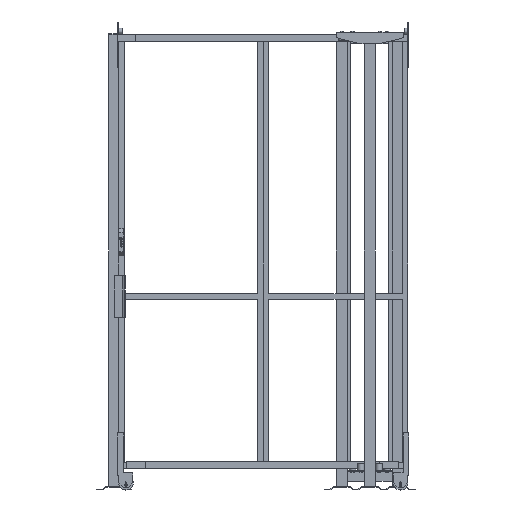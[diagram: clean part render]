
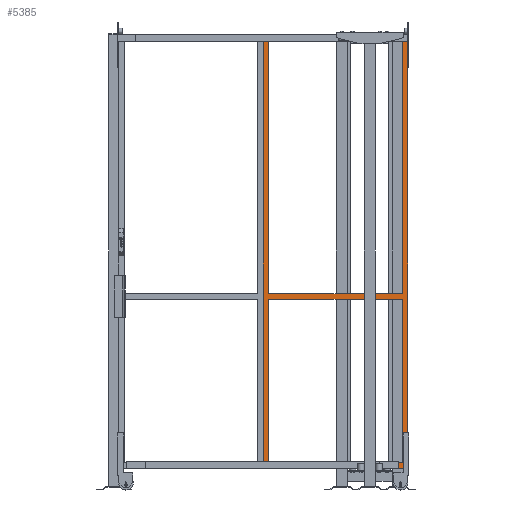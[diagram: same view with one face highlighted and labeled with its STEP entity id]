
A CAD part, front view. The second image highlights one B-rep face of the part: STEP entity #5385.
In plain terms, the highlighted planar face has unit normal (0, -1, 0).
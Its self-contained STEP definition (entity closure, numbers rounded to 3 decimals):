
#433=FACE_BOUND('',#874,.T.);
#434=FACE_BOUND('',#875,.T.);
#476=FACE_OUTER_BOUND('',#873,.T.);
#873=EDGE_LOOP('',(#3075,#3076,#3077,#3078));
#874=EDGE_LOOP('',(#3079,#3080,#3081,#3082));
#875=EDGE_LOOP('',(#3083,#3084,#3085,#3086));
#1307=VERTEX_POINT('',#10757);
#1309=VERTEX_POINT('',#10760);
#1312=VERTEX_POINT('',#10767);
#1314=VERTEX_POINT('',#10771);
#1315=VERTEX_POINT('',#10775);
#1317=VERTEX_POINT('',#10781);
#1318=VERTEX_POINT('',#10782);
#1319=VERTEX_POINT('',#10784);
#1320=VERTEX_POINT('',#10786);
#1321=VERTEX_POINT('',#10789);
#1322=VERTEX_POINT('',#10791);
#1323=VERTEX_POINT('',#10794);
#2034=EDGE_CURVE('',#1307,#1309,#6142,.T.);
#2040=EDGE_CURVE('',#1314,#1312,#6148,.T.);
#2041=EDGE_CURVE('',#1315,#1312,#6149,.T.);
#2044=EDGE_CURVE('',#1317,#1318,#6152,.T.);
#2045=EDGE_CURVE('',#1319,#1318,#6153,.T.);
#2046=EDGE_CURVE('',#1320,#1319,#6154,.T.);
#2047=EDGE_CURVE('',#1317,#1320,#6155,.T.);
#2048=EDGE_CURVE('',#1307,#1321,#6156,.T.);
#2049=EDGE_CURVE('',#1321,#1322,#6157,.T.);
#2050=EDGE_CURVE('',#1322,#1309,#6158,.T.);
#2051=EDGE_CURVE('',#1314,#1323,#6159,.T.);
#2052=EDGE_CURVE('',#1323,#1315,#6160,.T.);
#3075=ORIENTED_EDGE('',*,*,#2044,.T.);
#3076=ORIENTED_EDGE('',*,*,#2045,.F.);
#3077=ORIENTED_EDGE('',*,*,#2046,.F.);
#3078=ORIENTED_EDGE('',*,*,#2047,.F.);
#3079=ORIENTED_EDGE('',*,*,#2048,.T.);
#3080=ORIENTED_EDGE('',*,*,#2049,.T.);
#3081=ORIENTED_EDGE('',*,*,#2050,.T.);
#3082=ORIENTED_EDGE('',*,*,#2034,.F.);
#3083=ORIENTED_EDGE('',*,*,#2040,.F.);
#3084=ORIENTED_EDGE('',*,*,#2051,.T.);
#3085=ORIENTED_EDGE('',*,*,#2052,.T.);
#3086=ORIENTED_EDGE('',*,*,#2041,.T.);
#5028=PLANE('',#8115);
#5385=ADVANCED_FACE('',(#476,#433,#434),#5028,.F.);
#6142=LINE('',#10761,#7127);
#6148=LINE('',#10773,#7133);
#6149=LINE('',#10776,#7134);
#6152=LINE('',#10783,#7137);
#6153=LINE('',#10785,#7138);
#6154=LINE('',#10787,#7139);
#6155=LINE('',#10788,#7140);
#6156=LINE('',#10790,#7141);
#6157=LINE('',#10792,#7142);
#6158=LINE('',#10793,#7143);
#6159=LINE('',#10795,#7144);
#6160=LINE('',#10796,#7145);
#7127=VECTOR('',#8670,1.);
#7133=VECTOR('',#8678,1.);
#7134=VECTOR('',#8681,1.);
#7137=VECTOR('',#8686,1.);
#7138=VECTOR('',#8687,1.);
#7139=VECTOR('',#8688,1.);
#7140=VECTOR('',#8689,1.);
#7141=VECTOR('',#8690,1.);
#7142=VECTOR('',#8691,1.);
#7143=VECTOR('',#8692,1.);
#7144=VECTOR('',#8693,1.);
#7145=VECTOR('',#8694,1.);
#8115=AXIS2_PLACEMENT_3D('',#10780,#8684,#8685);
#8670=DIRECTION('',(1.,0.,0.));
#8678=DIRECTION('',(-1.,0.,0.));
#8681=DIRECTION('',(0.,0.,1.));
#8684=DIRECTION('center_axis',(0.,1.,0.));
#8685=DIRECTION('ref_axis',(0.,0.,1.));
#8686=DIRECTION('',(0.,0.,-1.));
#8687=DIRECTION('',(-1.,0.,0.));
#8688=DIRECTION('',(0.,0.,-1.));
#8689=DIRECTION('',(1.,0.,0.));
#8690=DIRECTION('',(0.,0.,1.));
#8691=DIRECTION('',(1.,0.,0.));
#8692=DIRECTION('',(0.,0.,-1.));
#8693=DIRECTION('',(0.,0.,-1.));
#8694=DIRECTION('',(-1.,0.,0.));
#10757=CARTESIAN_POINT('',(30.,0.,965.));
#10760=CARTESIAN_POINT('',(770.,0.,965.));
#10761=CARTESIAN_POINT('',(400.,0.,965.));
#10767=CARTESIAN_POINT('',(30.,0.,935.));
#10771=CARTESIAN_POINT('',(770.,0.,935.));
#10773=CARTESIAN_POINT('',(400.,0.,935.));
#10775=CARTESIAN_POINT('',(30.,0.,30.));
#10776=CARTESIAN_POINT('',(30.,0.,1200.));
#10780=CARTESIAN_POINT('Origin',(400.,0.,1200.));
#10781=CARTESIAN_POINT('',(0.,0.,2400.));
#10782=CARTESIAN_POINT('',(0.,0.,0.));
#10783=CARTESIAN_POINT('',(0.,0.,1200.));
#10784=CARTESIAN_POINT('',(800.,0.,0.));
#10785=CARTESIAN_POINT('',(400.,0.,0.));
#10786=CARTESIAN_POINT('',(800.,0.,2400.));
#10787=CARTESIAN_POINT('',(800.,0.,1200.));
#10788=CARTESIAN_POINT('',(400.,0.,2400.));
#10789=CARTESIAN_POINT('',(30.,0.,2370.));
#10790=CARTESIAN_POINT('',(30.,0.,1200.));
#10791=CARTESIAN_POINT('',(770.,0.,2370.));
#10792=CARTESIAN_POINT('',(400.,0.,2370.));
#10793=CARTESIAN_POINT('',(770.,0.,1200.));
#10794=CARTESIAN_POINT('',(770.,0.,30.));
#10795=CARTESIAN_POINT('',(770.,0.,1200.));
#10796=CARTESIAN_POINT('',(400.,0.,30.));
